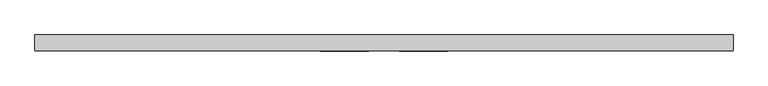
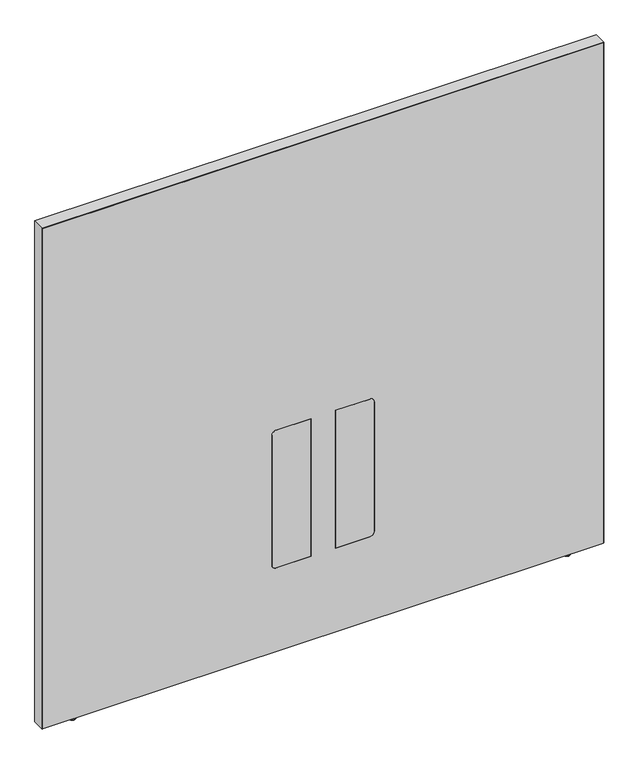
"""IFC4 building model written with IfcOpenShell, lengths in millimetres: furniture geometry, Steelcase - Answer Solution - Boundary Screen - Straight - Spanning : 48H x 51W."""

from ifc_helpers import new_model, si_unit, point, frame, frame_2d, origin, place, context, project, spatial, polyline, circle_curve, ellipse_curve, trimmed, segment, composite_curve, outline, extrude, source, transform, mapped, element, save
from ifc_brep_helpers import plane_surface, cylinder_surface, revolved_surface, advanced_brep


def furniture_dd05c5c4(model_context):
    return source(origin(), model_context, "Body", "SolidModel", [
        advanced_brep(
        [(-340.6902705, -14.8449166, 9.9059849), (-340.6902705, -5.9309607, 9.9059849), (-340.6902705, -23.7588726, 9.9059849), (-340.6902705, -5.9309607, 2.9673238), (-340.6902705, -23.7588726, 2.9673238), (-340.6902705, -6.8982978, 2.9673238), (-340.6902705, -22.7915354, 2.9673238), (-340.6902705, -6.8982978, 1.6569081), (-340.6902705, -22.7915354, 1.6569081), (-340.6902705, -8.5552059, 0.0), (-340.6902705, -21.1346274, 0.0), (-340.6902705, -14.8449166, 0.0)],
        [
            (0, 1),
            (1, 2, circle_curve(frame((-340.6902705, -14.8449166, 9.9059849), z_axis=(0.0, 0.0, 1.0), x_axis=(0.0, 1.0, 0.0)), 8.913956)),
            (2, 0),
            (2, 1, circle_curve(frame((-340.6902705, -14.8449166, 9.9059849), z_axis=(0.0, 0.0, 1.0), x_axis=(0.0, 1.0, 0.0)), 8.913956)),
            (1, 3),
            (3, 4, circle_curve(frame((-340.6902705, -14.8449166, 2.9673238), z_axis=(0.0, 0.0, 1.0), x_axis=(0.0, 1.0, 0.0)), 8.913956)),
            (4, 2),
            (4, 3, circle_curve(frame((-340.6902705, -14.8449166, 2.9673238), z_axis=(0.0, 0.0, 1.0), x_axis=(0.0, 1.0, 0.0)), 8.913956)),
            (3, 5),
            (5, 6, circle_curve(frame((-340.6902705, -14.8449166, 2.9673238), z_axis=(0.0, 0.0, 1.0), x_axis=(0.0, 1.0, 0.0)), 7.9466188)),
            (6, 4),
            (6, 5, circle_curve(frame((-340.6902705, -14.8449166, 2.9673238), z_axis=(0.0, 0.0, 1.0), x_axis=(0.0, 1.0, 0.0)), 7.9466188)),
            (5, 7),
            (7, 8, circle_curve(frame((-340.6902705, -14.8449166, 1.6569081), z_axis=(0.0, 0.0, 1.0), x_axis=(0.0, 1.0, 0.0)), 7.9466188)),
            (8, 6),
            (8, 7, circle_curve(frame((-340.6902705, -14.8449166, 1.6569081), z_axis=(0.0, 0.0, 1.0), x_axis=(0.0, 1.0, 0.0)), 7.9466188)),
            (7, 9, circle_curve(frame((-340.6902705, -8.5552059, 1.6569081), z_axis=(-1.0, 0.0, 0.0), x_axis=(0.0, 1.0, 0.0)), 1.6569081)),
            (9, 10, circle_curve(frame((-340.6902705, -14.8449166, 0.0), z_axis=(0.0, 0.0, 1.0), x_axis=(0.0, 1.0, 0.0)), 6.2897107)),
            (10, 8, circle_curve(frame((-340.6902705, -21.1346274, 1.6569081), z_axis=(-1.0, 0.0, 0.0), x_axis=(0.0, -1.0, 0.0)), 1.6569081)),
            (10, 9, circle_curve(frame((-340.6902705, -14.8449166, 0.0), z_axis=(0.0, 0.0, 1.0), x_axis=(0.0, 1.0, 0.0)), 6.2897107)),
            (9, 11),
            (11, 10),
        ],
        [
            plane_surface(frame((-340.6902705, -14.8449166, 9.9059849), z_axis=(0.0, 0.0, 1.0), x_axis=(0.0, 1.0, 0.0))),
            cylinder_surface(frame((-340.6902705, -14.8449166, 9.9059849), z_axis=(0.0, 0.0, 1.0), x_axis=(0.0, 1.0, 0.0)), 8.913956),
            plane_surface(frame((-340.6902705, -14.8449166, 2.9673238), z_axis=(0.0, 0.0, -1.0), x_axis=(0.0, 1.0, 0.0))),
            cylinder_surface(frame((-340.6902705, -14.8449166, 9.9059849), z_axis=(0.0, 0.0, 1.0), x_axis=(0.0, 1.0, 0.0)), 7.9466188),
            revolved_surface(trimmed(ellipse_curve(frame((-340.6902705, -8.5552059, 1.6569081), z_axis=(1.0, 0.0, 0.0), x_axis=(0.0, 1.0, 0.0)), 1.6569081, 1.6569081), [point((-340.6902705, -8.5552059, 0.0))], [point((-340.6902705, -6.8982978, 1.6569081))], True, "CARTESIAN"), (-340.6902705, -14.8449166, 9.9059849), (0.0, 0.0, 1.0)),
            plane_surface(frame((-340.6902705, -14.8449166, 0.0), z_axis=(0.0, 0.0, -1.0), x_axis=(0.0, 1.0, 0.0))),
        ],
        [
            (0, [[1, 2, 3]]),
            (0, [[-3, 4, -1]]),
            (1, [[-2, 5, 6, 7]]),
            (1, [[-4, -7, 8, -5]]),
            (2, [[-6, 9, 10, 11]]),
            (2, [[-8, -11, 12, -9]]),
            (3, [[-10, 13, 14, 15]]),
            (3, [[-12, -15, 16, -13]]),
            (4, [[-14, 17, 18, 19]]),
            (4, [[-16, -19, 20, -17]]),
            (5, [[-18, 21, 22]]),
            (5, [[-20, -22, -21]]),
        ],
    ),
        advanced_brep(
        [(800.3286488, -23.7588726, 9.9059849), (800.3286488, -5.9309607, 9.9059849), (800.3286488, -14.8449166, 9.9059849), (800.3286488, -23.7588726, 2.9673238), (800.3286488, -5.9309607, 2.9673238), (800.3286488, -22.7915354, 2.9673238), (800.3286488, -6.8982978, 2.9673238), (800.3286488, -22.7915354, 1.6569081), (800.3286488, -6.8982978, 1.6569081), (800.3286488, -21.1346274, 0.0), (800.3286488, -8.5552059, 0.0), (800.3286488, -14.8449166, 0.0)],
        [
            (0, 1, circle_curve(frame((800.3286488, -14.8449166, 9.9059849), z_axis=(0.0, 0.0, 1.0), x_axis=(0.0, 1.0, 0.0)), 8.913956)),
            (1, 2),
            (2, 0),
            (1, 0, circle_curve(frame((800.3286488, -14.8449166, 9.9059849), z_axis=(0.0, 0.0, 1.0), x_axis=(0.0, 1.0, 0.0)), 8.913956)),
            (3, 4, circle_curve(frame((800.3286488, -14.8449166, 2.9673238), z_axis=(0.0, 0.0, 1.0), x_axis=(0.0, 1.0, 0.0)), 8.913956)),
            (4, 1),
            (0, 3),
            (4, 3, circle_curve(frame((800.3286488, -14.8449166, 2.9673238), z_axis=(0.0, 0.0, 1.0), x_axis=(0.0, 1.0, 0.0)), 8.913956)),
            (5, 6, circle_curve(frame((800.3286488, -14.8449166, 2.9673238), z_axis=(0.0, 0.0, 1.0), x_axis=(0.0, 1.0, 0.0)), 7.9466188)),
            (6, 4),
            (3, 5),
            (6, 5, circle_curve(frame((800.3286488, -14.8449166, 2.9673238), z_axis=(0.0, 0.0, 1.0), x_axis=(0.0, 1.0, 0.0)), 7.9466188)),
            (7, 8, circle_curve(frame((800.3286488, -14.8449166, 1.6569081), z_axis=(0.0, 0.0, 1.0), x_axis=(0.0, 1.0, 0.0)), 7.9466188)),
            (8, 6),
            (5, 7),
            (8, 7, circle_curve(frame((800.3286488, -14.8449166, 1.6569081), z_axis=(0.0, 0.0, 1.0), x_axis=(0.0, 1.0, 0.0)), 7.9466188)),
            (9, 10, circle_curve(frame((800.3286488, -14.8449166, 0.0), z_axis=(0.0, 0.0, 1.0), x_axis=(0.0, 1.0, 0.0)), 6.2897107)),
            (10, 8, circle_curve(frame((800.3286488, -8.5552059, 1.6569081), z_axis=(1.0, 0.0, 0.0), x_axis=(0.0, 1.0, 0.0)), 1.6569081)),
            (7, 9, circle_curve(frame((800.3286488, -21.1346274, 1.6569081), z_axis=(1.0, 0.0, 0.0), x_axis=(0.0, -1.0, 0.0)), 1.6569081)),
            (10, 9, circle_curve(frame((800.3286488, -14.8449166, 0.0), z_axis=(0.0, 0.0, 1.0), x_axis=(0.0, 1.0, 0.0)), 6.2897107)),
            (11, 10),
            (9, 11),
        ],
        [
            plane_surface(frame((800.3286488, -14.8449166, 9.9059849), z_axis=(0.0, 0.0, 1.0), x_axis=(0.0, 1.0, 0.0))),
            cylinder_surface(frame((800.3286488, -14.8449166, 9.9059849), z_axis=(0.0, 0.0, -1.0), x_axis=(0.0, 1.0, 0.0)), 8.913956),
            plane_surface(frame((800.3286488, -14.8449166, 2.9673238), z_axis=(0.0, 0.0, -1.0), x_axis=(0.0, 1.0, 0.0))),
            cylinder_surface(frame((800.3286488, -14.8449166, 9.9059849), z_axis=(0.0, 0.0, -1.0), x_axis=(0.0, 1.0, 0.0)), 7.9466188),
            revolved_surface(trimmed(ellipse_curve(frame((800.3286488, -8.5552059, 1.6569081), z_axis=(-1.0, 0.0, 0.0), x_axis=(0.0, 1.0, 0.0)), 1.6569081, 1.6569081), [point((800.3286488, -6.8982978, 1.6569081))], [point((800.3286488, -8.5552059, 0.0))], True, "CARTESIAN"), (800.3286488, -14.8449166, 9.9059849), (0.0, 0.0, -1.0)),
            plane_surface(frame((800.3286488, -14.8449166, 0.0), z_axis=(0.0, 0.0, -1.0), x_axis=(0.0, 1.0, 0.0))),
        ],
        [
            (0, [[1, 2, 3]]),
            (0, [[4, -3, -2]]),
            (1, [[5, 6, -1, 7]]),
            (1, [[8, -7, -4, -6]]),
            (2, [[9, 10, -5, 11]]),
            (2, [[12, -11, -8, -10]]),
            (3, [[13, 14, -9, 15]]),
            (3, [[16, -15, -12, -14]]),
            (4, [[17, 18, -13, 19]]),
            (4, [[20, -19, -16, -18]]),
            (5, [[21, -17, 22]]),
            (5, [[-22, -20, -21]]),
        ],
    ),
        advanced_brep(
        [(876.4780168, 0.0, 1229.142118), (876.4780168, 0.0, 9.9059849), (-416.8902221, 0.0, 9.9059849), (-416.8902221, 0.0, 1229.142118), (876.4780168, -29.6898332, 1229.142118), (-416.8902221, -29.6898332, 1229.142118), (-416.8902221, -29.6898332, 9.9059849), (876.4780168, -29.6898332, 9.9059849), (337.7883813, -29.6898332, 549.6162029), (347.9483813, -29.6898332, 539.4562029), (347.9483813, -29.6898332, 223.9362137), (337.7883813, -29.6898332, 213.7762137), (258.1344836, -29.6898332, 213.7762137), (258.1344836, -29.6898332, 549.6162029), (121.849997, -29.6898332, 549.6162029), (201.5038947, -29.6898332, 549.6162029), (201.5038947, -29.6898332, 213.7762137), (121.849997, -29.6898332, 213.7762137), (111.689997, -29.6898332, 223.9362137), (111.689997, -29.6898332, 539.4562029), (258.1344836, -29.0550397, 549.6162029), (337.7883813, -29.0550397, 549.6162029), (258.1344836, -29.0550397, 213.7762137), (337.7883813, -29.0550397, 213.7762137), (347.9483813, -29.0550397, 223.9362137), (347.9483813, -29.0550397, 539.4562029), (121.849997, -29.0550397, 549.6162029), (111.689997, -29.0550397, 539.4562029), (111.689997, -29.0550397, 223.9362137), (121.849997, -29.0550397, 213.7762137), (201.5038947, -29.0550397, 213.7762137), (201.5038947, -29.0550397, 549.6162029)],
        [
            (0, 1),
            (1, 2),
            (2, 3),
            (3, 0),
            (4, 5),
            (5, 6),
            (6, 7),
            (7, 4),
            (8, 9, circle_curve(frame((337.7883813, -29.6898332, 539.4562029), z_axis=(0.0, 1.0, 0.0), x_axis=(0.0, 0.0, 1.0)), 10.16)),
            (9, 10),
            (10, 11, circle_curve(frame((337.7883813, -29.6898332, 223.9362137), z_axis=(0.0, 1.0, 0.0), x_axis=(0.0, 0.0, 1.0)), 10.16)),
            (11, 12),
            (12, 13),
            (13, 8),
            (14, 15),
            (15, 16),
            (16, 17),
            (17, 18, circle_curve(frame((121.849997, -29.6898332, 223.9362137), z_axis=(0.0, 1.0, 0.0), x_axis=(0.0, 0.0, 1.0)), 10.16)),
            (18, 19),
            (19, 14, circle_curve(frame((121.849997, -29.6898332, 539.4562029), z_axis=(0.0, 1.0, 0.0), x_axis=(0.0, 0.0, 1.0)), 10.16)),
            (0, 4),
            (7, 1),
            (6, 2),
            (5, 3),
            (13, 20),
            (20, 21),
            (21, 8),
            (12, 22),
            (22, 20),
            (11, 23),
            (23, 22),
            (10, 24),
            (24, 23, circle_curve(frame((337.7883813, -29.0550397, 223.9362137), z_axis=(0.0, 1.0, 0.0), x_axis=(0.0, 0.0, 1.0)), 10.16)),
            (9, 25),
            (25, 24),
            (21, 25, circle_curve(frame((337.7883813, -29.0550397, 539.4562029), z_axis=(0.0, 1.0, 0.0), x_axis=(0.0, 0.0, 1.0)), 10.16)),
            (26, 27, circle_curve(frame((121.849997, -29.0550397, 539.4562029), z_axis=(0.0, -1.0, 0.0), x_axis=(0.0, 0.0, 1.0)), 10.16)),
            (27, 28),
            (28, 29, circle_curve(frame((121.849997, -29.0550397, 223.9362137), z_axis=(0.0, -1.0, 0.0), x_axis=(0.0, 0.0, 1.0)), 10.16)),
            (29, 30),
            (30, 31),
            (31, 26),
            (19, 27),
            (26, 14),
            (18, 28),
            (17, 29),
            (16, 30),
            (15, 31),
        ],
        [
            plane_surface(frame((876.4780168, 0.0, 1229.142118), z_axis=(0.0, 1.0, 0.0), x_axis=(0.0, 0.0, -1.0))),
            plane_surface(frame((876.4780168, -29.6898332, 1229.142118), z_axis=(0.0, -1.0, 0.0), x_axis=(0.0, 0.0, 1.0))),
            plane_surface(frame((876.4780168, 0.0, 1229.142118), z_axis=(1.0, 0.0, 0.0), x_axis=(0.0, -1.0, 0.0))),
            plane_surface(frame((876.4780168, 0.0, 9.9059849), z_axis=(0.0, 0.0, -1.0), x_axis=(0.0, -1.0, 0.0))),
            plane_surface(frame((-416.8902221, 0.0, 9.9059849), z_axis=(-1.0, 0.0, 0.0), x_axis=(0.0, -1.0, 0.0))),
            plane_surface(frame((-416.8902221, 0.0, 1229.142118), z_axis=(0.0, 0.0, 1.0), x_axis=(0.0, -1.0, 0.0))),
            plane_surface(frame((337.7883813, 0.0, 549.6162029), z_axis=(0.0, 0.0, -1.0), x_axis=(0.0, -1.0, 0.0))),
            plane_surface(frame((258.1344836, 0.0, 549.6162029), z_axis=(1.0, 0.0, 0.0), x_axis=(0.0, -1.0, 0.0))),
            plane_surface(frame((258.1344836, 0.0, 213.7762137), z_axis=(0.0, 0.0, 1.0), x_axis=(0.0, -1.0, 0.0))),
            revolved_surface(polyline([(337.7883813, -29.6898332, 234.0962137), (337.7883813, -29.0550397, 234.0962137)]), (337.7883813, -29.6898332, 223.9362137), (0.0, -1.0, 0.0)),
            plane_surface(frame((347.9483813, 0.0, 223.9362137), z_axis=(-1.0, 0.0, 0.0), x_axis=(0.0, -1.0, 0.0))),
            revolved_surface(polyline([(337.7883813, -29.6898332, 549.6162029), (337.7883813, -29.0550397, 549.6162029)]), (337.7883813, -29.6898332, 539.4562029), (0.0, -1.0, 0.0)),
            plane_surface(frame((347.9483813, -29.0550397, 549.6162029), z_axis=(0.0, -1.0, 0.0), x_axis=(0.0, 0.0, 1.0))),
            revolved_surface(polyline([(121.849997, -29.6898332, 549.6162029), (121.849997, -29.0550397, 549.6162029)]), (121.849997, -29.6898332, 539.4562029), (0.0, -1.0, 0.0)),
            plane_surface(frame((111.689997, 0.0, 539.4562029), z_axis=(1.0, 0.0, 0.0), x_axis=(0.0, -1.0, 0.0))),
            revolved_surface(polyline([(121.849997, -29.6898332, 234.0962137), (121.849997, -29.0550397, 234.0962137)]), (121.849997, -29.6898332, 223.9362137), (0.0, -1.0, 0.0)),
            plane_surface(frame((121.849997, 0.0, 213.7762137), z_axis=(0.0, 0.0, 1.0), x_axis=(0.0, -1.0, 0.0))),
            plane_surface(frame((201.5038947, 0.0, 213.7762137), z_axis=(-1.0, 0.0, 0.0), x_axis=(0.0, -1.0, 0.0))),
            plane_surface(frame((201.5038947, 0.0, 549.6162029), z_axis=(0.0, 0.0, -1.0), x_axis=(0.0, -1.0, 0.0))),
        ],
        [
            (0, [[1, 2, 3, 4]]),
            (1, [[5, 6, 7, 8], [9, 10, 11, 12, 13, 14], [15, 16, 17, 18, 19, 20]]),
            (2, [[-1, 21, -8, 22]]),
            (3, [[-2, -22, -7, 23]]),
            (4, [[-3, -23, -6, 24]]),
            (5, [[-4, -24, -5, -21]]),
            (6, [[-14, 25, 26, 27]]),
            (7, [[-13, 28, 29, -25]]),
            (8, [[-12, 30, 31, -28]]),
            (9, [[-11, 32, 33, -30]]),
            (10, [[-10, 34, 35, -32]]),
            (11, [[-9, -27, 36, -34]]),
            (12, [[-26, -29, -31, -33, -35, -36]]),
            (12, [[37, 38, 39, 40, 41, 42]]),
            (13, [[-20, 43, -37, 44]]),
            (14, [[-19, 45, -38, -43]]),
            (15, [[-18, 46, -39, -45]]),
            (16, [[-17, 47, -40, -46]]),
            (17, [[-16, 48, -41, -47]]),
            (18, [[-15, -44, -42, -48]]),
        ],
    ),
        extrude(outline(composite_curve([segment(polyline([(549.6162029, 337.7883813), (549.6162029, 258.1344836), (213.7762137, 258.1344836), (213.7762137, 337.7883813)]), True, "CONTINUOUS"), segment(trimmed(circle_curve(frame_2d((223.9362137, 337.7883813)), 10.16), [point((213.7762137, 337.7883813))], [point((223.9362137, 347.9483813))], False, "CARTESIAN"), True, "CONTINUOUS"), segment(polyline([(223.9362137, 347.9483813), (539.4562029, 347.9483813)]), True, "CONTINUOUS"), segment(trimmed(circle_curve(frame_2d((539.4562029, 337.7883813)), 10.16), [point((539.4562029, 347.9483813))], [point((549.6162029, 337.7883813))], False, "CARTESIAN"), True, "CONTINUOUS")], self_intersect=False)), frame((0.0, -29.6898332, 0.0), z_axis=(0.0, 1.0, 0.0), x_axis=(0.0, 0.0, 1.0)), (0.0, 0.0, 1.0), 0.6347935),
        extrude(outline(composite_curve([segment(trimmed(circle_curve(frame_2d((539.4562029, 121.849997)), 10.16), [point((549.6162029, 121.849997))], [point((539.4562029, 111.689997))], False, "CARTESIAN"), True, "CONTINUOUS"), segment(polyline([(539.4562029, 111.689997), (223.9362137, 111.689997)]), True, "CONTINUOUS"), segment(trimmed(circle_curve(frame_2d((223.9362137, 121.849997)), 10.16), [point((223.9362137, 111.689997))], [point((213.7762137, 121.849997))], False, "CARTESIAN"), True, "CONTINUOUS"), segment(polyline([(213.7762137, 121.849997), (213.7762137, 201.5038947), (549.6162029, 201.5038947), (549.6162029, 121.849997)]), True, "CONTINUOUS")], self_intersect=False)), frame((0.0, -29.6898332, 0.0), z_axis=(0.0, 1.0, 0.0), x_axis=(0.0, 0.0, 1.0)), (0.0, 0.0, 1.0), 0.6347935),
        extrude(outline(polyline([(1230.122, 877.5191891), (1230.122, -417.8808109), (9.9059849, -417.8808109), (9.9059849, -416.8902221), (1229.142118, -416.8902221), (1229.142118, 876.4780168), (9.9059849, 876.4780168), (9.9059849, 877.5191891), (1230.122, 877.5191891)])), frame((0.0, -29.6898332, 0.0), z_axis=(0.0, 1.0, 0.0), x_axis=(0.0, 0.0, 1.0)), (0.0, 0.0, 1.0), 29.6898332),
    ])


if __name__ == "__main__":
    model = new_model("IFC4")
    model_context = context("Model", 3, world=origin())
    ifc_project = project(units=[si_unit("LENGTHUNIT", "METRE", prefix="MILLI")], contexts=[model_context])
    site = spatial("IfcSite", under=ifc_project)
    building = spatial("IfcBuilding", under=site)
    placement = place(None, origin())
    furniture_shape = furniture_dd05c5c4(model_context)
    element("IfcFurniture", 1, ObjectType="Steelcase - Answer Solution - Boundary Screen - Straight - Spanning : 48H x 51W", at=placement, inside=building, context=model_context, shape_type="MappedRepresentation", body=[
        mapped(furniture_shape, transform((0.0, 0.0, 0.0), x_axis=(1.0, 0.0, 0.0), y_axis=(0.0, 1.0, 0.0), z_axis=(0.0, 0.0, 1.0))),
    ])
    save(model, "model.ifc")
